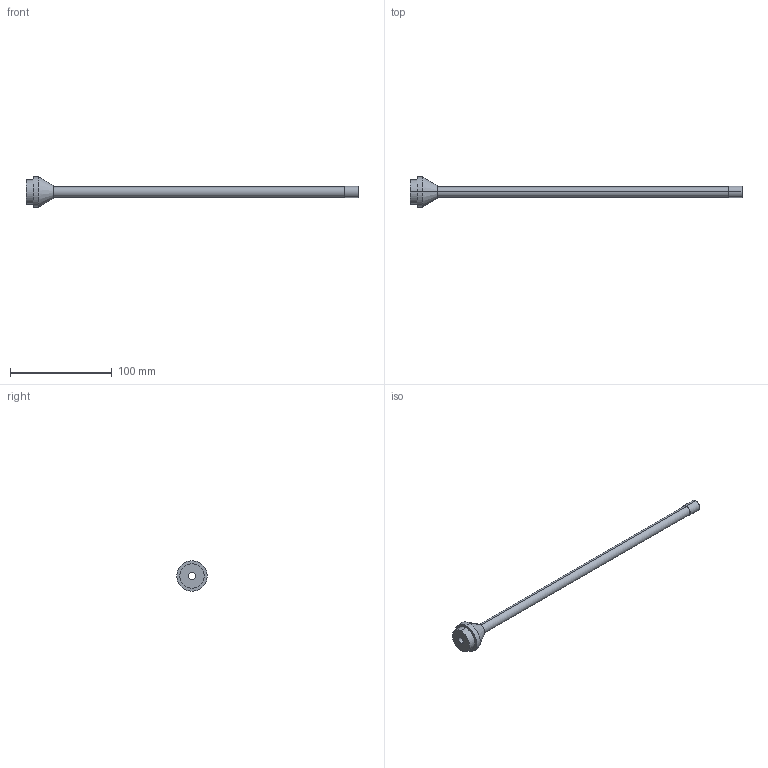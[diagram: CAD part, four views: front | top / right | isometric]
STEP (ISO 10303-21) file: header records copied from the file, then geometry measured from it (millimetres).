
FILE_DESCRIPTION (( 'STEP AP203' ), '1' );
FILE_NAME ('ER-AD30.STEP', '2005-09-05T02:02:38', ( '' ), ( '' ), 'SwSTEP 2.0', 'SolidWorks 2004073', '' );
FILE_SCHEMA (( 'CONFIG_CONTROL_DESIGN' ));
Length unit declared in the file: millimetre
Products named in the file (1): ER-AD30
Bounding box: 327 x 30 x 30 mm (x, y, z)
Volume: 23406.4 mm3; surface area: 19585.8 mm2
Topology: 1 solids, 1 shells, 17 faces, 34 edges, 22 vertices
Faces by surface type: cylinder 10, plane 5, cone 2
Entity records: 535 total; most frequent: DIRECTION 92, CARTESIAN_POINT 74, ORIENTED_EDGE 68, AXIS2_PLACEMENT_3D 40, EDGE_CURVE 34, CIRCLE 22, EDGE_LOOP 22, VERTEX_POINT 22
